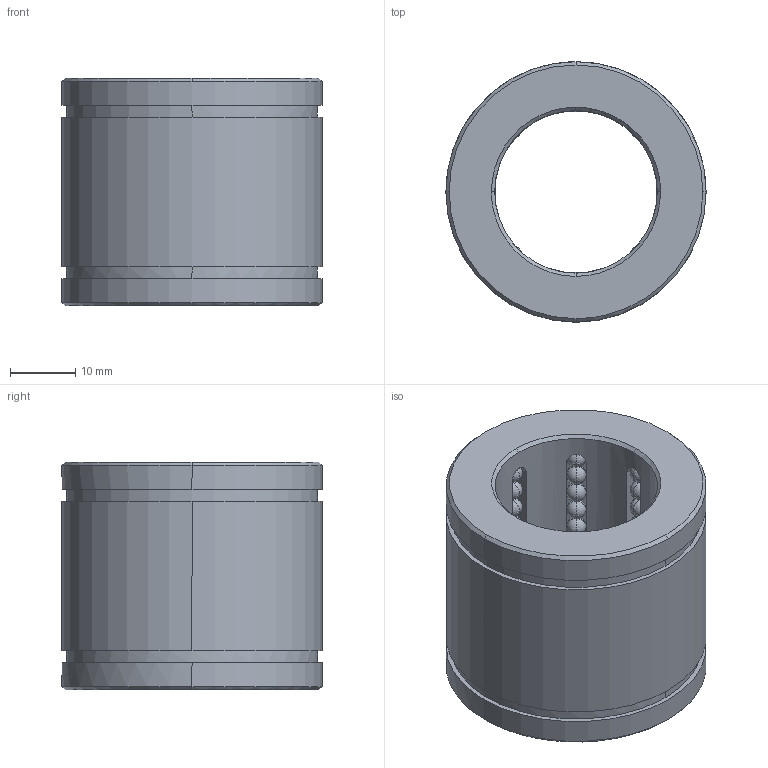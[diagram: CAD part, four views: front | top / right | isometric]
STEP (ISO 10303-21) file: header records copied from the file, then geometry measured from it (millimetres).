
FILE_DESCRIPTION(('CATIA V5 STEP Exchange'),'2;1');
FILE_NAME('C:\Users\Raffaele\Desktop\3D BOLEX\3D FILES CF BOLEX\3-BUSH REF 803\B8032535.stp','2019-06-19T14:09:02+00:00',('none'),('none'),'CATIA Version 5 Release 20 GA (IN-10)','CATIA V5 STEP AP203','none');
FILE_SCHEMA(('CONFIG_CONTROL_DESIGN'));
Length unit declared in the file: millimetre
Products named in the file (1): B8032535
Bounding box: 40 x 40 x 35 mm (x, y, z)
Volume: 25497.8 mm3; surface area: 12364.5 mm2
Topology: 73 solids, 73 shells, 362 faces, 1042 edges, 260 vertices
Faces by surface type: sphere 288, plane 30, cylinder 28, cone 16
Entity records: 7370 total; most frequent: CARTESIAN_POINT 1645, DIRECTION 1149, ORIENTED_EDGE 932, AXIS2_PLACEMENT_3D 694, EDGE_CURVE 466, EDGE_LOOP 374, ADVANCED_FACE 362, FACE_OUTER_BOUND 362
